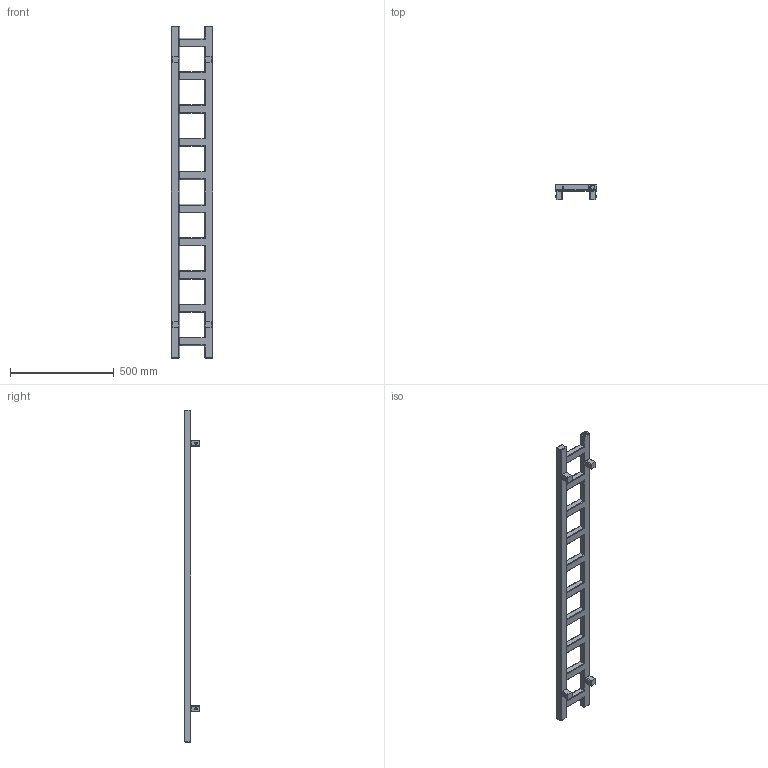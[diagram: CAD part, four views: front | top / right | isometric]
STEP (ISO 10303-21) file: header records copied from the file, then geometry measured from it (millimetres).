
FILE_DESCRIPTION((''),'2;1');
FILE_NAME('Z:\R\G\P\RGP102 - Grzejnik Easy 2012\Work\Inventor\Marketing\Modele AutoCAD\EAS-200-1600 S5.stp','2012-07-02T08:14:21',('KurKa'),(''),'Autodesk Inventor 2012','Autodesk Inventor 2012','');
FILE_SCHEMA(('AUTOMOTIVE_DESIGN { 1 0 10303 214 1 1 1 1 }'));
Length unit declared in the file: millimetre
Products named in the file (3): EAS-200-1600 S5; MMT42_marketing
Assembly tree (5 placements, depth 2):
  EAS-200-1600 S5
    EAS-200-1600 S5
    MMT42_marketing  x4
Bounding box: 200 x 72 x 1600 mm (x, y, z)
Volume: 5379651.6 mm3; surface area: 612318 mm2
Topology: 5 solids, 5 shells, 358 faces, 854 edges, 499 vertices
Faces by surface type: plane 175, cylinder 134, cone 27, sphere 14, torus 8
Full cylindrical faces by diameter (mm): 4.509 x4, 12 x4, 18.631 x3
Entity records: 6228 total; most frequent: DIRECTION 1131, CARTESIAN_POINT 1052, ORIENTED_EDGE 1006, EDGE_CURVE 503, AXIS2_PLACEMENT_3D 401, VECTOR 329, LINE 329, VERTEX_POINT 282
